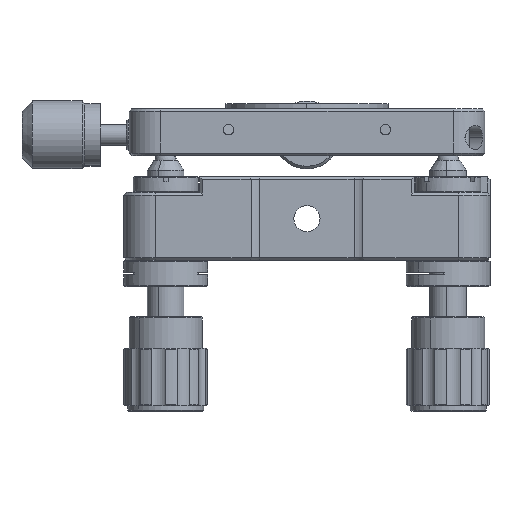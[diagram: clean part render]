
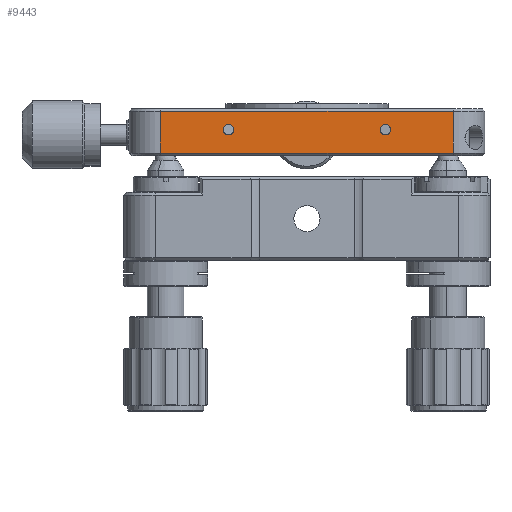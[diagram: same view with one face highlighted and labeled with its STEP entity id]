
A CAD part, front view. The second image highlights one B-rep face of the part: STEP entity #9443.
In plain terms, the highlighted planar face has unit normal (0, -1, 0).
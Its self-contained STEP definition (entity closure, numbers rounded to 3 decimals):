
#118 = DIRECTION ( 'NONE',  ( -1., 0., 0. ) ) ;
#907 = VERTEX_POINT ( 'NONE', #23522 ) ;
#1757 = CARTESIAN_POINT ( 'NONE',  ( -27.15, -34., -9. ) ) ;
#1929 = EDGE_CURVE ( 'NONE', #16087, #907, #23102, .T. ) ;
#1935 = AXIS2_PLACEMENT_3D ( 'NONE', #9936, #4223, #4301 ) ;
#2214 = ORIENTED_EDGE ( 'NONE', *, *, #9326, .T. ) ;
#2614 = EDGE_LOOP ( 'NONE', ( #3161, #2214, #7797, #5497 ) ) ;
#2730 = ORIENTED_EDGE ( 'NONE', *, *, #24091, .F. ) ;
#2854 = EDGE_CURVE ( 'NONE', #5200, #19043, #11770, .T. ) ;
#2903 = CARTESIAN_POINT ( 'NONE',  ( -14.15, -34., -4. ) ) ;
#3161 = ORIENTED_EDGE ( 'NONE', *, *, #1929, .T. ) ;
#3430 = DIRECTION ( 'NONE',  ( 0., 0., 1. ) ) ;
#4223 = DIRECTION ( 'NONE',  ( 0., -1., 0. ) ) ;
#4236 = AXIS2_PLACEMENT_3D ( 'NONE', #5057, #6879, #18302 ) ;
#4301 = DIRECTION ( 'NONE',  ( 0., 0., 1. ) ) ;
#4352 = AXIS2_PLACEMENT_3D ( 'NONE', #6255, #13787, #5930 ) ;
#5057 = CARTESIAN_POINT ( 'NONE',  ( 15.85, -34., -4. ) ) ;
#5200 = VERTEX_POINT ( 'NONE', #8864 ) ;
#5287 = ORIENTED_EDGE ( 'NONE', *, *, #2854, .F. ) ;
#5497 = ORIENTED_EDGE ( 'NONE', *, *, #20056, .T. ) ;
#5801 = ORIENTED_EDGE ( 'NONE', *, *, #8366, .F. ) ;
#5930 = DIRECTION ( 'NONE',  ( 0., 0., -1. ) ) ;
#6255 = CARTESIAN_POINT ( 'NONE',  ( 34.85, -34., -9. ) ) ;
#6397 = VERTEX_POINT ( 'NONE', #15788 ) ;
#6505 = CARTESIAN_POINT ( 'NONE',  ( 28.85, -34., -8.5 ) ) ;
#6816 = DIRECTION ( 'NONE',  ( 0., 0., 1. ) ) ;
#6879 = DIRECTION ( 'NONE',  ( 0., -1., 0. ) ) ;
#7797 = ORIENTED_EDGE ( 'NONE', *, *, #17717, .T. ) ;
#8366 = EDGE_CURVE ( 'NONE', #19105, #6397, #21464, .T. ) ;
#8424 = VERTEX_POINT ( 'NONE', #23745 ) ;
#8433 = FACE_BOUND ( 'NONE', #14330, .T. ) ;
#8813 = LINE ( 'NONE', #18564, #16521 ) ;
#8864 = CARTESIAN_POINT ( 'NONE',  ( 15.85, -34., -3. ) ) ;
#9326 = EDGE_CURVE ( 'NONE', #907, #19578, #20599, .T. ) ;
#9443 = ADVANCED_FACE ( 'NONE', ( #13458, #8433, #12879 ), #9982, .F. ) ;
#9936 = CARTESIAN_POINT ( 'NONE',  ( -14.15, -34., -4. ) ) ;
#9982 = PLANE ( 'NONE',  #4352 ) ;
#10513 = VECTOR ( 'NONE', #118, 1000. ) ;
#11474 = CARTESIAN_POINT ( 'NONE',  ( 34.85, -34., -0.5 ) ) ;
#11720 = ORIENTED_EDGE ( 'NONE', *, *, #11743, .F. ) ;
#11743 = EDGE_CURVE ( 'NONE', #6397, #19105, #14538, .T. ) ;
#11770 = CIRCLE ( 'NONE', #4236, 1. ) ;
#11912 = DIRECTION ( 'NONE',  ( 0., -1., 0. ) ) ;
#12842 = EDGE_LOOP ( 'NONE', ( #5801, #11720 ) ) ;
#12879 = FACE_OUTER_BOUND ( 'NONE', #2614, .T. ) ;
#13458 = FACE_BOUND ( 'NONE', #12842, .T. ) ;
#13787 = DIRECTION ( 'NONE',  ( 0., 1., 0. ) ) ;
#14330 = EDGE_LOOP ( 'NONE', ( #5287, #2730 ) ) ;
#14538 = CIRCLE ( 'NONE', #23748, 1. ) ;
#15697 = LINE ( 'NONE', #1757, #18378 ) ;
#15788 = CARTESIAN_POINT ( 'NONE',  ( -14.15, -34., -5. ) ) ;
#15885 = DIRECTION ( 'NONE',  ( 0., 0., 1. ) ) ;
#16087 = VERTEX_POINT ( 'NONE', #6505 ) ;
#16521 = VECTOR ( 'NONE', #24256, 1000. ) ;
#16935 = DIRECTION ( 'NONE',  ( 0., 0., -1. ) ) ;
#16982 = AXIS2_PLACEMENT_3D ( 'NONE', #19539, #11912, #15885 ) ;
#17717 = EDGE_CURVE ( 'NONE', #19578, #8424, #15697, .T. ) ;
#18302 = DIRECTION ( 'NONE',  ( 0., 0., 1. ) ) ;
#18378 = VECTOR ( 'NONE', #16935, 1000. ) ;
#18564 = CARTESIAN_POINT ( 'NONE',  ( 28.85, -34., -8.5 ) ) ;
#18835 = CARTESIAN_POINT ( 'NONE',  ( 28.85, -34., -9. ) ) ;
#19043 = VERTEX_POINT ( 'NONE', #24138 ) ;
#19105 = VERTEX_POINT ( 'NONE', #20581 ) ;
#19539 = CARTESIAN_POINT ( 'NONE',  ( 15.85, -34., -4. ) ) ;
#19578 = VERTEX_POINT ( 'NONE', #20320 ) ;
#20056 = EDGE_CURVE ( 'NONE', #8424, #16087, #8813, .T. ) ;
#20320 = CARTESIAN_POINT ( 'NONE',  ( -27.15, -34., -0.5 ) ) ;
#20581 = CARTESIAN_POINT ( 'NONE',  ( -14.15, -34., -3. ) ) ;
#20599 = LINE ( 'NONE', #11474, #10513 ) ;
#21464 = CIRCLE ( 'NONE', #1935, 1. ) ;
#21607 = VECTOR ( 'NONE', #3430, 1000. ) ;
#21627 = DIRECTION ( 'NONE',  ( 0., -1., 0. ) ) ;
#23102 = LINE ( 'NONE', #18835, #21607 ) ;
#23522 = CARTESIAN_POINT ( 'NONE',  ( 28.85, -34., -0.5 ) ) ;
#23745 = CARTESIAN_POINT ( 'NONE',  ( -27.15, -34., -8.5 ) ) ;
#23748 = AXIS2_PLACEMENT_3D ( 'NONE', #2903, #21627, #6816 ) ;
#24091 = EDGE_CURVE ( 'NONE', #19043, #5200, #24153, .T. ) ;
#24138 = CARTESIAN_POINT ( 'NONE',  ( 15.85, -34., -5. ) ) ;
#24153 = CIRCLE ( 'NONE', #16982, 1. ) ;
#24256 = DIRECTION ( 'NONE',  ( 1., 0., 0. ) ) ;
